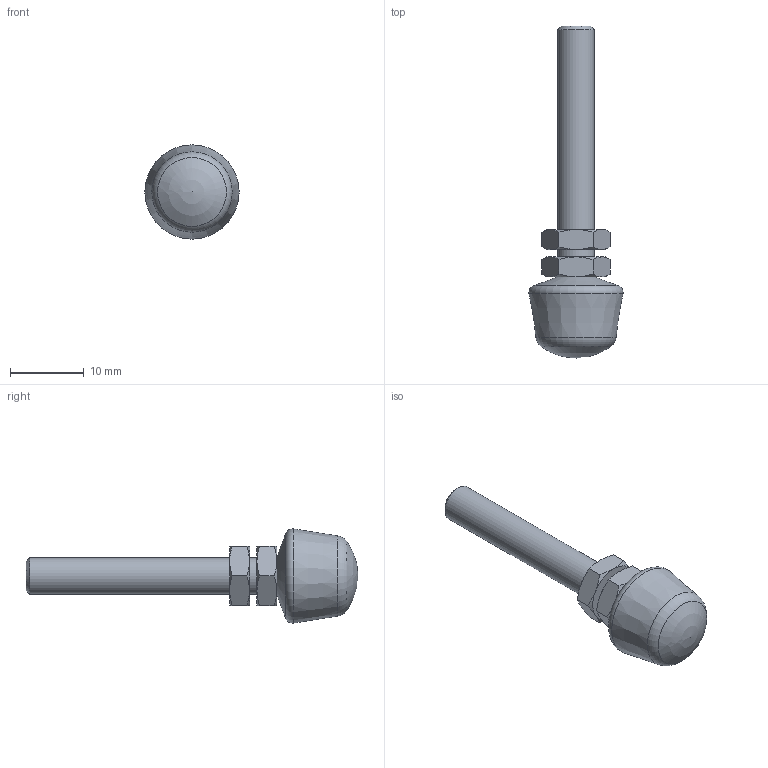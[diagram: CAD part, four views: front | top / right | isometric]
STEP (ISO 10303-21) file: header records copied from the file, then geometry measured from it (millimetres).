
FILE_DESCRIPTION( ( 'STEP AP203' ), '1' );
FILE_NAME( 'C:/Temp/Ganter_Step_05_03_2020/data/2_4/gn_708_1/gn_708_1_ni/Stainless Steel-Clamping bolt GN 708.1-M5-45-B-NI (0).stp', '2020-03-13T05:51:22', ( 'License CC BY-ND 4.0' ), ( 'CADENAS' ), ' ', 'PARTsolutions', ' ' );
FILE_SCHEMA( ( 'CONFIG_CONTROL_DESIGN' ) );
Length unit declared in the file: millimetre
Products named in the file (3): Stainless Steel-Clamping bolt GN 708.1-M5-45-B-NI (0); _Edelstahl-Andrueckschraube GN 708.1-M5-45-B-NI (0)-1; _Edelstahl-Andrueckschraube GN 708.1-M5-45-B-NI-2
Assembly tree (3 placements, depth 2):
  Stainless Steel-Clamping bolt GN 708.1-M5-45-B-NI (0)
    _Edelstahl-Andrueckschraube GN 708.1-M5-45-B-NI (0)-1
    _Edelstahl-Andrueckschraube GN 708.1-M5-45-B-NI-2  x2
Bounding box: 12.77 x 45 x 12.77 mm (x, y, z)
Volume: 1896.6 mm3; surface area: 1403.8 mm2
Topology: 3 solids, 3 shells, 54 faces, 114 edges, 65 vertices
Faces by surface type: cone 31, plane 17, cylinder 3, torus 2, sphere 1
Full cylindrical faces by diameter (mm): 4.134 x2, 5 x1
Entity records: 926 total; most frequent: CARTESIAN_POINT 229, DIRECTION 122, ORIENTED_EDGE 106, AXIS2_PLACEMENT_3D 58, EDGE_CURVE 53, EDGE_LOOP 42, VERTEX_POINT 37, FACE_OUTER_BOUND 35
